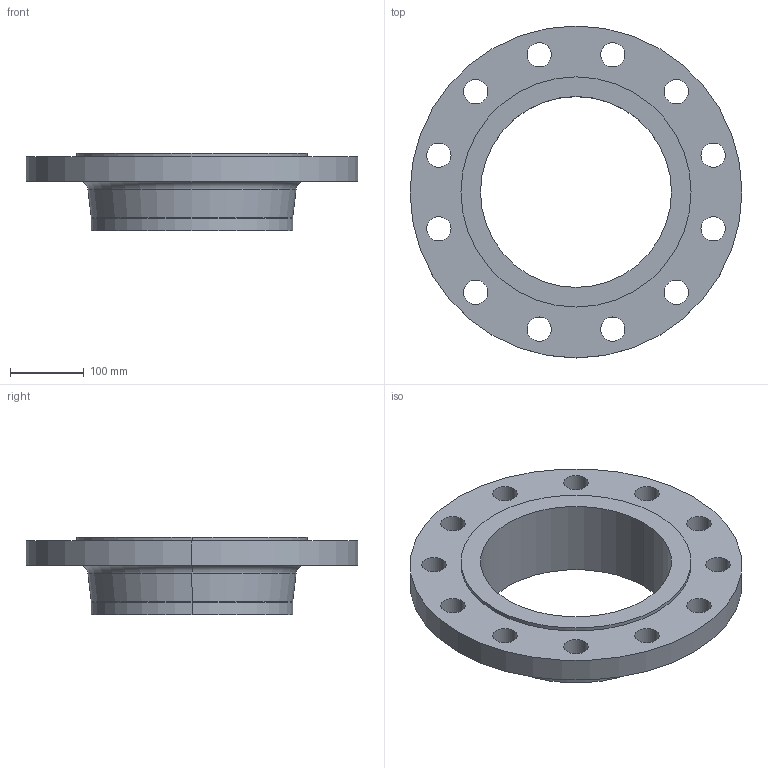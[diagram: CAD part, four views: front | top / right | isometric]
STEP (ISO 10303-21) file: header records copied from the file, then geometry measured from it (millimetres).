
FILE_DESCRIPTION (( 'STEP AP214' ), '1' );
FILE_NAME ('PN40 DN250 Type 11 - Type E Face.STEP', '2019-01-05T16:10:55', ( '' ), ( '' ), 'SwSTEP 2.0', 'SolidWorks 2019', '' );
FILE_SCHEMA (( 'AUTOMOTIVE_DESIGN' ));
Length unit declared in the file: millimetre
Products named in the file (1): PN40 DN250 Type 11 - Type E Face
Bounding box: 450 x 450 x 105 mm (x, y, z)
Volume: 3837554 mm3; surface area: 420461.1 mm2
Topology: 1 solids, 1 shells, 42 faces, 108 edges, 70 vertices
Faces by surface type: cylinder 32, torus 4, plane 4, cone 2
Entity records: 1404 total; most frequent: DIRECTION 268, CARTESIAN_POINT 221, ORIENTED_EDGE 216, AXIS2_PLACEMENT_3D 117, EDGE_CURVE 108, CIRCLE 74, EDGE_LOOP 70, VERTEX_POINT 70
